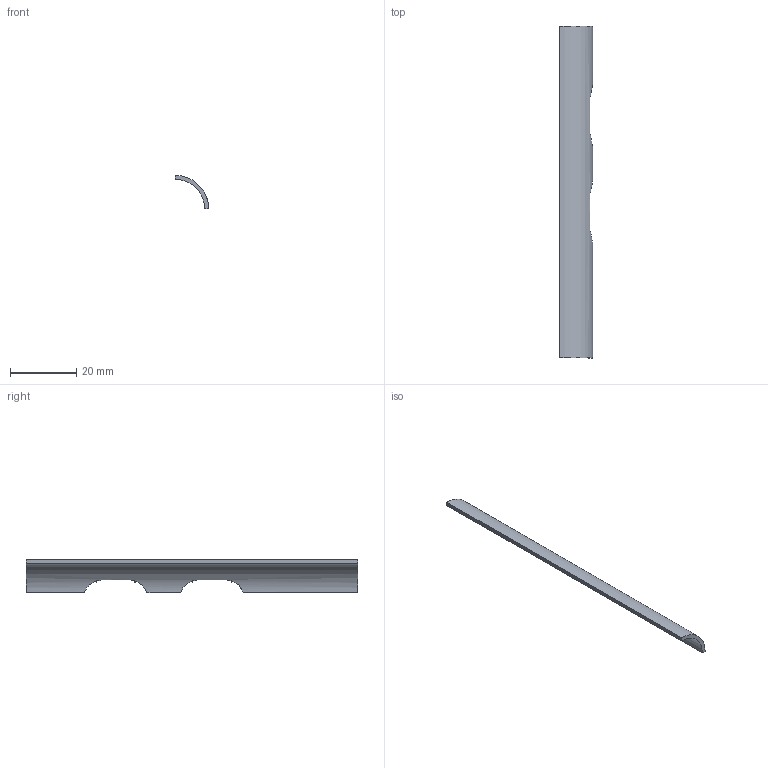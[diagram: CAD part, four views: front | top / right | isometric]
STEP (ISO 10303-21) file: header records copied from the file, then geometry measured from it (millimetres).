
FILE_DESCRIPTION(('Open CASCADE Model'),'2;1');
FILE_NAME('Open CASCADE Shape Model','2026-09-15T13:49:33',('Author'),( 'Open CASCADE'),'Open CASCADE STEP processor 7.7','Open CASCADE 7.7' ,'Unknown');
FILE_SCHEMA(('AUTOMOTIVE_DESIGN { 1 0 10303 214 1 1 1 1 }'));
Length unit declared in the file: millimetre
Products named in the file (1): Open_CASCADE_STEP_translator_7_7_1
Bounding box: 10 x 100 x 10 mm (x, y, z)
Volume: 1617.1 mm3; surface area: 2987.9 mm2
Topology: 1 solids, 1 shells, 52 faces, 142 edges, 92 vertices
Faces by surface type: plane 38, cylinder 10, bspline 4
Entity records: 4221 total; most frequent: CARTESIAN_POINT 1561, DIRECTION 430, ORIENTED_EDGE 284, PCURVE 284, DEFINITIONAL_REPRESENTATION 284, LINE 256, VECTOR 256, EDGE_CURVE 142
